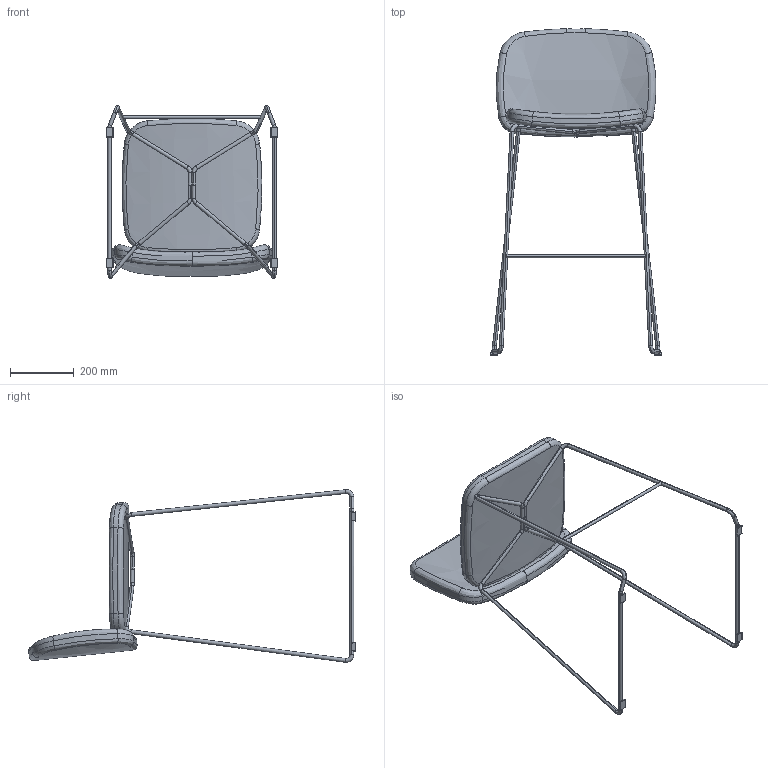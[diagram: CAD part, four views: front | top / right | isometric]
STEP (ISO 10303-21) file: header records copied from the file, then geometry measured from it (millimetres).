
FILE_DESCRIPTION (( 'STEP AP203' ), '1' );
FILE_NAME ('PRISTINA 011.STEP', '2024-04-12T08:06:15', ( '' ), ( '' ), 'SwSTEP 2.0', 'SolidWorks 2023', '' );
FILE_SCHEMA (( 'CONFIG_CONTROL_DESIGN' ));
Length unit declared in the file: millimetre
Products named in the file (5): PRISTINA ESTRUTURA NOVA BANCO; PRISTINA 011; banco CCC COSTA -; banco CCC - PERNAS; TACO 12MM
Assembly tree (7 placements, depth 2):
  PRISTINA 011
    banco CCC - PERNAS
    banco CCC COSTA -
    PRISTINA ESTRUTURA NOVA BANCO
    TACO 12MM  x4
Bounding box: 538.43 x 1026.49 x 542.45 mm (x, y, z)
Volume: 15389010.9 mm3; surface area: 977516.3 mm2
Topology: 9 solids, 9 shells, 300 faces, 710 edges, 380 vertices
Faces by surface type: cylinder 117, bspline 62, sphere 56, plane 35, torus 30
Entity records: 12406 total; most frequent: CARTESIAN_POINT 8070, ORIENTED_EDGE 820, DIRECTION 769, EDGE_CURVE 410, AXIS2_PLACEMENT_3D 342, VERTEX_POINT 248, CIRCLE 211, FACE_OUTER_BOUND 174
